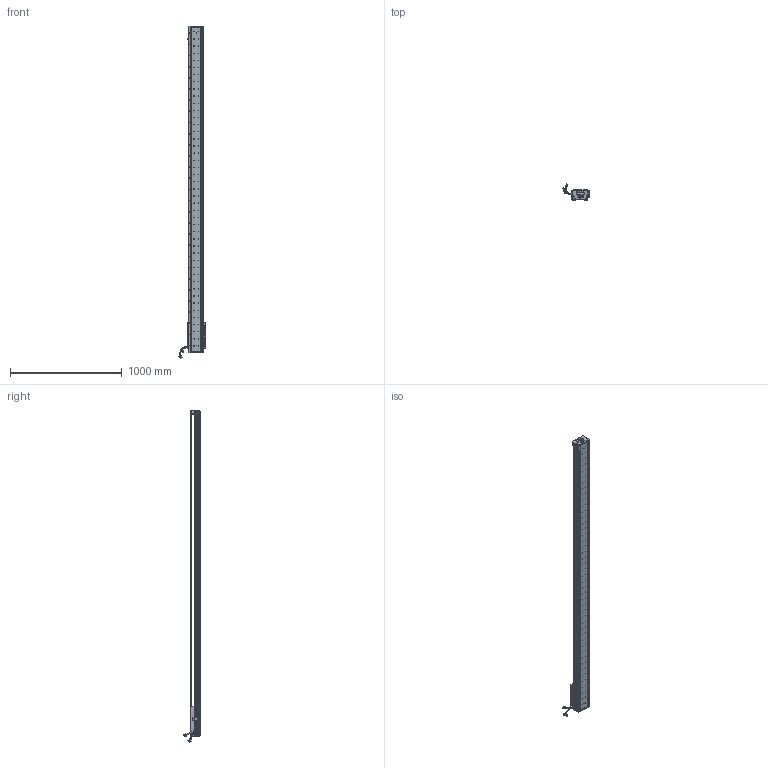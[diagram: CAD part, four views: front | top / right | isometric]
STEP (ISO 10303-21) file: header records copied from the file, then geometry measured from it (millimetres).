
FILE_DESCRIPTION (( 'STEP AP203' ), '1' );
FILE_NAME ('Z3-RY140D-1-L500-B-K.SLDASM_2600.step', '2021-05-17T08:05:47', ( '盈信电脑' ), ( '东莞市道滘镇水果街19号' ), 'SwSTEP 2.0', 'SolidWorks 2016', '' );
FILE_SCHEMA (( 'CONFIG_CONTROL_DESIGN' ));
Length unit declared in the file: millimetre
Products named in the file (36): SCALE; Z3-RY140-L500直线电机模组底座_2600; Z3-RY140圉猾敕臏賑輸(21遴); SCREW-M1.6-2; SCREW-M1.6-1; HARNESS; Z-RY140詩湍奻揤裔; SCALE-Part-2; COVER-Part-1; Z3-RY140D-1-L500-B-K.SLDASM_2600; 覜茼ん672; 140-Z-臏賑輸盄裔(21遴); LABEL; SCREW-M1.6-3; Z-RY140感应器672光电感应片; SHIELDPLATE; HARNESS-Part-1; SCREW-M1.7-1; 140蚥薯蝶輸; PSLH080_PSLF2; 140雄赽晤鎢ん堤盄; SCREW-M1.7; Z-140詩湍傷裔啣; COVER; LABEL-Part-1; 榋妏寠巭燃_暯_M2_2; SCREW-M1.6; HOLDER0; HARNESS-Part-2; Z-RY140詩湍狟揤裔; 080黍杅芛假蚾釱21遴; Z3-RY140-L500詩湍100mm遵_2600; PBU_SHEET; SEAL-Part-1; SEAL; SCALE-Part-1
Assembly tree (41 placements, depth 4):
  Z3-RY140D-1-L500-B-K.SLDASM_2600
    Z3-RY140-L500直线电机模组底座_2600
    Z-RY140感应器672光电感应片
    Z3-RY140圉猾敕臏賑輸(21遴)
    覜茼ん672  x3
    Z3-RY140-L500詩湍100mm遵_2600
    PSLH080_PSLF2
      SCALE
        SCALE-Part-1
        SCALE-Part-2
      HARNESS
        HARNESS-Part-1
        HARNESS-Part-2
      LABEL
        LABEL-Part-1
      COVER
        COVER-Part-1
      SEAL
        SEAL-Part-1
      榋妏寠巭燃_暯_M2_2
      SHIELDPLATE
      SCREW-M1.7
      SCREW-M1.7-1
      PBU_SHEET
      SCREW-M1.6
      SCREW-M1.6-1
      SCREW-M1.6-2
      SCREW-M1.6-3
      HOLDER0
    080黍杅芛假蚾釱21遴
    140-Z-臏賑輸盄裔(21遴)
    Z-140詩湍傷裔啣  x2
    Z-RY140詩湍狟揤裔  x2
    Z-RY140詩湍奻揤裔  x2
    140蚥薯蝶輸  x2
    140雄赽晤鎢ん堤盄
Bounding box: 239.79 x 143.88 x 2975.87 mm (x, y, z)
Volume: 9425642.7 mm3; surface area: 2458020.2 mm2
Topology: 36 solids, 36 shells, 4348 faces, 11876 edges, 7521 vertices
Faces by surface type: cylinder 2390, plane 1410, cone 426, torus 69, bspline 53
Entity records: 139316 total; most frequent: CARTESIAN_POINT 39857, ORIENTED_EDGE 20624, DIRECTION 18944, EDGE_CURVE 10312, AXIS2_PLACEMENT_3D 7056, VERTEX_POINT 6689, VECTOR 4832, LINE 4832
